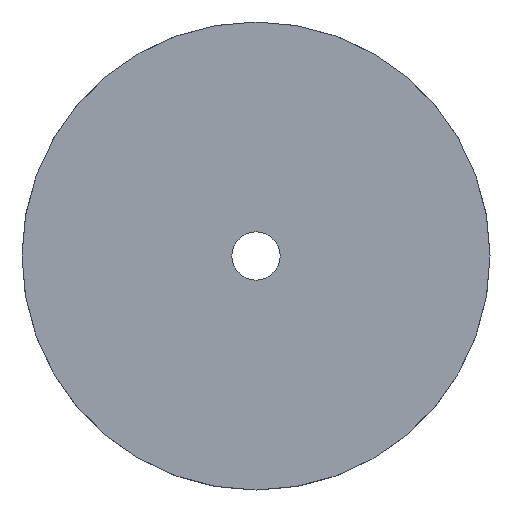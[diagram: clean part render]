
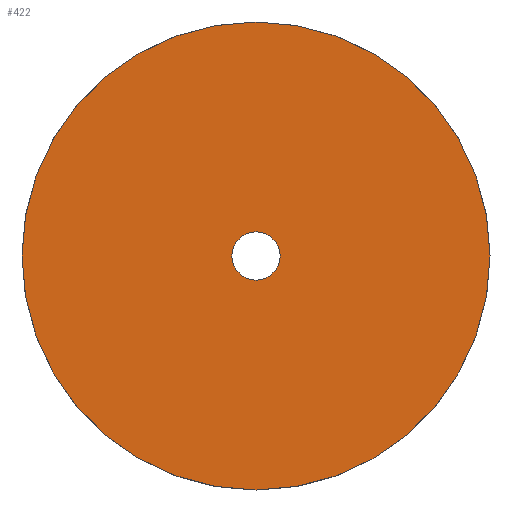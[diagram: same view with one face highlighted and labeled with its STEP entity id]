
A CAD part, front view. The second image highlights one B-rep face of the part: STEP entity #422.
In plain terms, the highlighted planar face has unit normal (0, -1, 0).
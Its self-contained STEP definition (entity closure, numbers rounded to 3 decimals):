
#31 = EDGE_LOOP ( 'NONE', ( #703, #361 ) ) ;
#32 = CARTESIAN_POINT ( 'NONE',  ( 0., 0., 16. ) ) ;
#52 = FACE_OUTER_BOUND ( 'NONE', #272, .T. ) ;
#77 = DIRECTION ( 'NONE',  ( 0., 1., 0. ) ) ;
#113 = DIRECTION ( 'NONE',  ( 0., 0., 1. ) ) ;
#115 = DIRECTION ( 'NONE',  ( 0., 0., 1. ) ) ;
#119 = CIRCLE ( 'NONE', #405, 1.65 ) ;
#164 = EDGE_CURVE ( 'NONE', #676, #240, #210, .T. ) ;
#165 = DIRECTION ( 'NONE',  ( 0., 1., 0. ) ) ;
#173 = EDGE_CURVE ( 'NONE', #389, #564, #419, .T. ) ;
#182 = CARTESIAN_POINT ( 'NONE',  ( 0., 0., 1.65 ) ) ;
#189 = CARTESIAN_POINT ( 'NONE',  ( 0., 0., 0. ) ) ;
#191 = CIRCLE ( 'NONE', #439, 16. ) ;
#198 = DIRECTION ( 'NONE',  ( 0., 1., 0. ) ) ;
#210 = CIRCLE ( 'NONE', #706, 1.65 ) ;
#236 = ORIENTED_EDGE ( 'NONE', *, *, #173, .F. ) ;
#240 = VERTEX_POINT ( 'NONE', #182 ) ;
#272 = EDGE_LOOP ( 'NONE', ( #708, #236 ) ) ;
#276 = CARTESIAN_POINT ( 'NONE',  ( 0., 0., -16. ) ) ;
#295 = DIRECTION ( 'NONE',  ( 0., 0., 1. ) ) ;
#298 = AXIS2_PLACEMENT_3D ( 'NONE', #666, #165, #115 ) ;
#324 = PLANE ( 'NONE',  #298 ) ;
#342 = CARTESIAN_POINT ( 'NONE',  ( 0., 0., 0. ) ) ;
#361 = ORIENTED_EDGE ( 'NONE', *, *, #402, .T. ) ;
#385 = CARTESIAN_POINT ( 'NONE',  ( 0., 0., 0. ) ) ;
#389 = VERTEX_POINT ( 'NONE', #32 ) ;
#400 = DIRECTION ( 'NONE',  ( 0., 0., 1. ) ) ;
#402 = EDGE_CURVE ( 'NONE', #240, #676, #119, .T. ) ;
#405 = AXIS2_PLACEMENT_3D ( 'NONE', #661, #442, #113 ) ;
#419 = CIRCLE ( 'NONE', #459, 16. ) ;
#422 = ADVANCED_FACE ( 'NONE', ( #52, #494 ), #324, .F. ) ;
#439 = AXIS2_PLACEMENT_3D ( 'NONE', #189, #198, #295 ) ;
#442 = DIRECTION ( 'NONE',  ( 0., 1., 0. ) ) ;
#459 = AXIS2_PLACEMENT_3D ( 'NONE', #342, #77, #400 ) ;
#472 = CARTESIAN_POINT ( 'NONE',  ( 0., 0., -1.65 ) ) ;
#494 = FACE_BOUND ( 'NONE', #31, .T. ) ;
#564 = VERTEX_POINT ( 'NONE', #276 ) ;
#621 = DIRECTION ( 'NONE',  ( 0., 0., 1. ) ) ;
#659 = EDGE_CURVE ( 'NONE', #564, #389, #191, .T. ) ;
#661 = CARTESIAN_POINT ( 'NONE',  ( 0., 0., 0. ) ) ;
#666 = CARTESIAN_POINT ( 'NONE',  ( 0., 0., 0. ) ) ;
#670 = DIRECTION ( 'NONE',  ( 0., 1., 0. ) ) ;
#676 = VERTEX_POINT ( 'NONE', #472 ) ;
#703 = ORIENTED_EDGE ( 'NONE', *, *, #164, .T. ) ;
#706 = AXIS2_PLACEMENT_3D ( 'NONE', #385, #670, #621 ) ;
#708 = ORIENTED_EDGE ( 'NONE', *, *, #659, .F. ) ;
